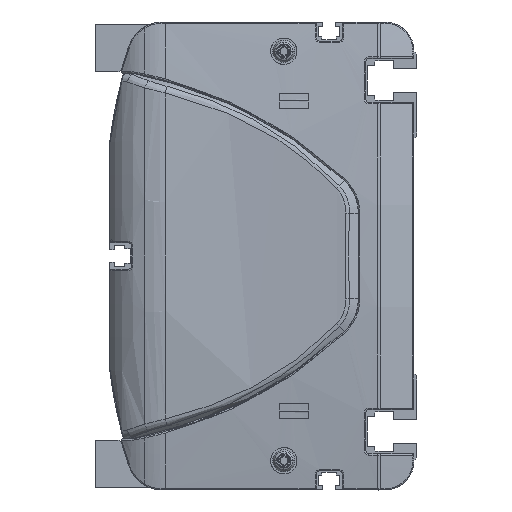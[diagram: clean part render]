
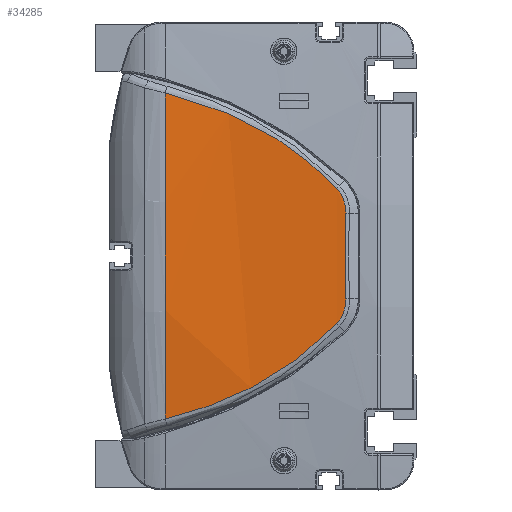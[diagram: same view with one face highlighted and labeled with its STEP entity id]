
A CAD part, left-side view. The second image highlights one B-rep face of the part: STEP entity #34285.
In plain terms, the highlighted cylindrical face has radius 600 mm (diameter 1200 mm), a partial arc.
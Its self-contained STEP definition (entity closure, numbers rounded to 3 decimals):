
#11734=CARTESIAN_POINT('',(-12.406,86.,
55.736));
#11735=CARTESIAN_POINT('',(-12.529,80.495,
54.41));
#11736=CARTESIAN_POINT('',(-12.828,69.636,
51.114));
#11737=CARTESIAN_POINT('',(-13.389,54.079,
44.179));
#11738=CARTESIAN_POINT('',(-14.01,39.709,
34.979));
#11739=CARTESIAN_POINT('',(-14.395,31.353,
27.243));
#11740=CARTESIAN_POINT('',(-14.555,27.451,
23.113));
#11742=CARTESIAN_POINT('',(-14.555,27.451,
23.113));
#11743=CARTESIAN_POINT('',(-14.598,26.394,
21.994));
#11744=CARTESIAN_POINT('',(-14.695,24.746,
19.315));
#11745=CARTESIAN_POINT('',(-14.783,24.276,
16.208));
#11746=CARTESIAN_POINT('',(-14.821,24.351,
14.67));
#11748=CARTESIAN_POINT('',(-14.821,24.351,
14.67));
#11749=CARTESIAN_POINT('',(-14.9,24.51,
11.413));
#11750=CARTESIAN_POINT('',(-15.007,24.721,
4.895));
#11751=CARTESIAN_POINT('',(-15.007,24.721,
-4.895));
#11752=CARTESIAN_POINT('',(-14.9,24.51,
-11.413));
#11753=CARTESIAN_POINT('',(-14.821,24.351,
-14.67));
#11755=CARTESIAN_POINT('',(-14.821,24.351,
-14.67));
#11756=CARTESIAN_POINT('',(-14.783,24.276,
-16.208));
#11757=CARTESIAN_POINT('',(-14.695,24.746,
-19.315));
#11758=CARTESIAN_POINT('',(-14.598,26.394,
-21.995));
#11759=CARTESIAN_POINT('',(-14.555,27.451,
-23.113));
#11761=CARTESIAN_POINT('',(-14.555,27.451,
-23.113));
#11762=CARTESIAN_POINT('',(-14.395,31.353,
-27.243));
#11763=CARTESIAN_POINT('',(-14.01,39.709,
-34.979));
#11764=CARTESIAN_POINT('',(-13.389,54.079,
-44.179));
#11765=CARTESIAN_POINT('',(-12.828,69.636,
-51.114));
#11766=CARTESIAN_POINT('',(-12.529,80.495,
-54.41));
#11767=CARTESIAN_POINT('',(-12.406,86.,
-55.736));
#11769=CARTESIAN_POINT('',(585.,86.,0.));
#11770=DIRECTION('',(0.,1.,0.));
#11771=DIRECTION('',(-0.996,0.,-0.093));
#11772=AXIS2_PLACEMENT_3D('',#11769,#11770,#11771);
#11785=CARTESIAN_POINT('',(-12.406,86.,
55.736));
#13768=VERTEX_POINT('',#11785);
#13769=CARTESIAN_POINT('',(-12.406,86.,
-55.736));
#13770=VERTEX_POINT('',#13769);
#13820=VERTEX_POINT('',#11740);
#13821=VERTEX_POINT('',#11746);
#13822=VERTEX_POINT('',#11753);
#13823=VERTEX_POINT('',#11759);
#34267=CARTESIAN_POINT('',(585.,87.45,0.));
#34268=DIRECTION('',(0.,-1.,0.));
#34269=DIRECTION('',(0.,0.,-1.));
#34270=AXIS2_PLACEMENT_3D('',#34267,#34268,#34269);
#34271=CYLINDRICAL_SURFACE('',#34270,600.);
#34273=ORIENTED_EDGE('',*,*,#34272,.T.);
#34275=ORIENTED_EDGE('',*,*,#34274,.T.);
#34276=ORIENTED_EDGE('',*,*,#34257,.T.);
#34278=ORIENTED_EDGE('',*,*,#34277,.T.);
#34280=ORIENTED_EDGE('',*,*,#34279,.T.);
#34282=ORIENTED_EDGE('',*,*,#34281,.T.);
#34283=EDGE_LOOP('',(#34273,#34275,#34276,#34278,#34280,#34282));
#34284=FACE_OUTER_BOUND('',#34283,.F.);
#34285=ADVANCED_FACE('',(#34284),#34271,.T.);
#11741=B_SPLINE_CURVE_WITH_KNOTS('',3,(#11734,#11735,#11736,#11737,#11738,
#11739,#11740),.UNSPECIFIED.,.F.,.F.,(4,1,1,1,4),(0.,0.25,0.5,0.75,
1.),.UNSPECIFIED.);
#11747=B_SPLINE_CURVE_WITH_KNOTS('',3,(#11742,#11743,#11744,#11745,#11746),
.UNSPECIFIED.,.F.,.F.,(4,1,4),(0.,0.5,1.),.UNSPECIFIED.);
#11754=B_SPLINE_CURVE_WITH_KNOTS('',3,(#11748,#11749,#11750,#11751,#11752,
#11753),.UNSPECIFIED.,.F.,.F.,(4,1,1,4),(0.,0.333,
0.667,1.),.UNSPECIFIED.);
#11760=B_SPLINE_CURVE_WITH_KNOTS('',3,(#11755,#11756,#11757,#11758,#11759),
.UNSPECIFIED.,.F.,.F.,(4,1,4),(0.,0.5,1.),.UNSPECIFIED.);
#11768=B_SPLINE_CURVE_WITH_KNOTS('',3,(#11761,#11762,#11763,#11764,#11765,
#11766,#11767),.UNSPECIFIED.,.F.,.F.,(4,1,1,1,4),(0.,0.25,0.5,0.75,
1.),.UNSPECIFIED.);
#11773=CIRCLE('',#11772,600.);
#34257=EDGE_CURVE('',#13821,#13822,#11754,.T.);
#34272=EDGE_CURVE('',#13768,#13820,#11741,.T.);
#34274=EDGE_CURVE('',#13820,#13821,#11747,.T.);
#34277=EDGE_CURVE('',#13822,#13823,#11760,.T.);
#34279=EDGE_CURVE('',#13823,#13770,#11768,.T.);
#34281=EDGE_CURVE('',#13770,#13768,#11773,.T.);
